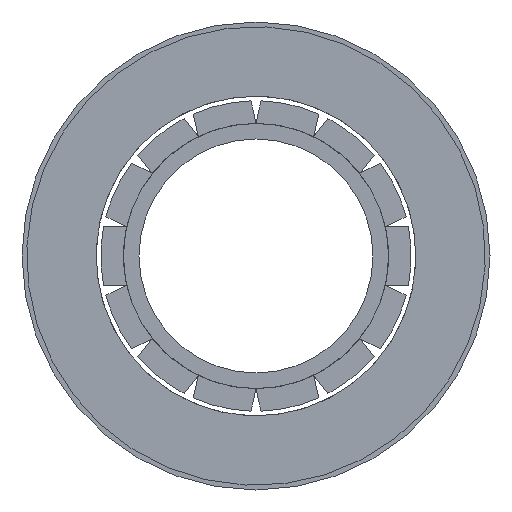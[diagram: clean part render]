
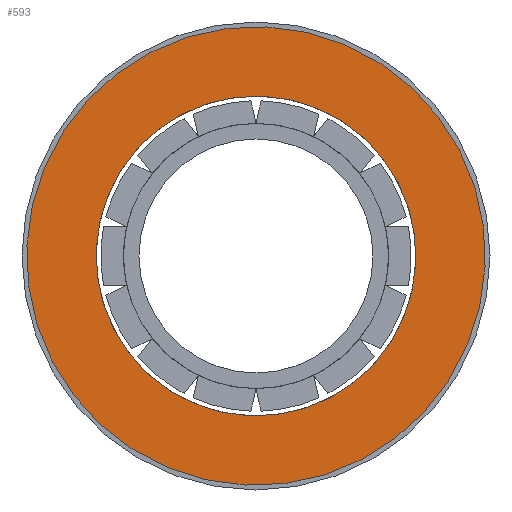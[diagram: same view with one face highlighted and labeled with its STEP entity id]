
A CAD part, left-side view. The second image highlights one B-rep face of the part: STEP entity #593.
In plain terms, the highlighted planar face has unit normal (-1, 0, 0).
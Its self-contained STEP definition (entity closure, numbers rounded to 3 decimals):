
#6 = FACE_OUTER_BOUND ( 'NONE', #2012, .T. ) ;
#60 = CARTESIAN_POINT ( 'NONE',  ( 0., 0., 0. ) ) ;
#146 = DIRECTION ( 'NONE',  ( 0., 0., -1. ) ) ;
#187 = DIRECTION ( 'NONE',  ( 0., 0., -1. ) ) ;
#255 = DIRECTION ( 'NONE',  ( 1., 0., 0. ) ) ;
#315 = AXIS2_PLACEMENT_3D ( 'NONE', #717, #2239, #146 ) ;
#490 = CARTESIAN_POINT ( 'NONE',  ( 0., 0., -20.5 ) ) ;
#512 = CARTESIAN_POINT ( 'NONE',  ( 0., 0., -29.4 ) ) ;
#593 = ADVANCED_FACE ( 'NONE', ( #6, #2498 ), #1584, .F. ) ;
#613 = DIRECTION ( 'NONE',  ( 1., 0., 0. ) ) ;
#674 = ORIENTED_EDGE ( 'NONE', *, *, #1833, .T. ) ;
#717 = CARTESIAN_POINT ( 'NONE',  ( 0., 0., 0. ) ) ;
#799 = ORIENTED_EDGE ( 'NONE', *, *, #1004, .F. ) ;
#865 = EDGE_CURVE ( 'NONE', #2168, #896, #2104, .T. ) ;
#896 = VERTEX_POINT ( 'NONE', #2001 ) ;
#982 = VERTEX_POINT ( 'NONE', #490 ) ;
#1004 = EDGE_CURVE ( 'NONE', #896, #2168, #1742, .T. ) ;
#1128 = CIRCLE ( 'NONE', #1494, 20.5 ) ;
#1251 = CIRCLE ( 'NONE', #1663, 20.5 ) ;
#1283 = AXIS2_PLACEMENT_3D ( 'NONE', #1628, #2410, #2037 ) ;
#1446 = EDGE_CURVE ( 'NONE', #2107, #982, #1251, .T. ) ;
#1494 = AXIS2_PLACEMENT_3D ( 'NONE', #60, #255, #2174 ) ;
#1563 = ORIENTED_EDGE ( 'NONE', *, *, #865, .F. ) ;
#1584 = PLANE ( 'NONE',  #1726 ) ;
#1603 = CARTESIAN_POINT ( 'NONE',  ( 0., 0., 0. ) ) ;
#1628 = CARTESIAN_POINT ( 'NONE',  ( 0., 0., 0. ) ) ;
#1630 = CARTESIAN_POINT ( 'NONE',  ( 0., 0., 20.5 ) ) ;
#1663 = AXIS2_PLACEMENT_3D ( 'NONE', #1751, #613, #187 ) ;
#1726 = AXIS2_PLACEMENT_3D ( 'NONE', #1603, #1774, #2360 ) ;
#1742 = CIRCLE ( 'NONE', #315, 29.4 ) ;
#1751 = CARTESIAN_POINT ( 'NONE',  ( 0., 0., 0. ) ) ;
#1774 = DIRECTION ( 'NONE',  ( 1., 0., 0. ) ) ;
#1833 = EDGE_CURVE ( 'NONE', #982, #2107, #1128, .T. ) ;
#2001 = CARTESIAN_POINT ( 'NONE',  ( 0., 0., 29.4 ) ) ;
#2012 = EDGE_LOOP ( 'NONE', ( #799, #1563 ) ) ;
#2037 = DIRECTION ( 'NONE',  ( 0., 0., -1. ) ) ;
#2076 = ORIENTED_EDGE ( 'NONE', *, *, #1446, .T. ) ;
#2104 = CIRCLE ( 'NONE', #1283, 29.4 ) ;
#2107 = VERTEX_POINT ( 'NONE', #1630 ) ;
#2168 = VERTEX_POINT ( 'NONE', #512 ) ;
#2174 = DIRECTION ( 'NONE',  ( 0., 0., -1. ) ) ;
#2239 = DIRECTION ( 'NONE',  ( 1., 0., 0. ) ) ;
#2354 = EDGE_LOOP ( 'NONE', ( #2076, #674 ) ) ;
#2360 = DIRECTION ( 'NONE',  ( 0., 0., -1. ) ) ;
#2410 = DIRECTION ( 'NONE',  ( 1., 0., 0. ) ) ;
#2498 = FACE_BOUND ( 'NONE', #2354, .T. ) ;
